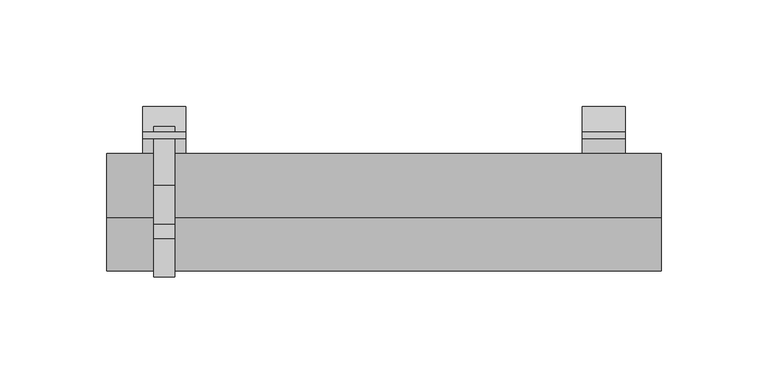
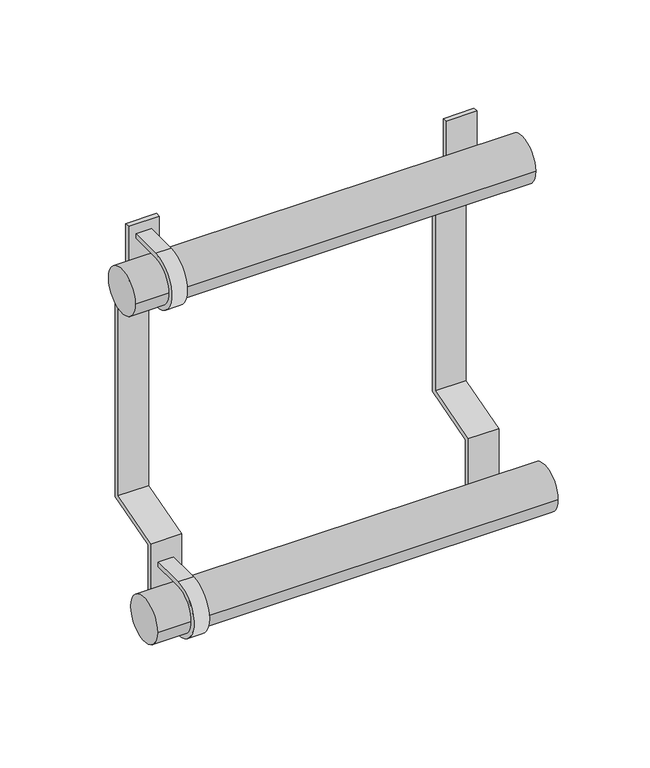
"""IFC4 building model written with IfcOpenShell, lengths in millimetres: valve geometry, PL AT_Manifold_FT-EV : 04 circuits."""

from ifc_helpers import new_model, si_unit, point, frame, frame_2d, origin, origin_2d, place, context, project, spatial, polyline, circle_curve, trimmed, segment, composite_curve, outline, extrude, source, transform, mapped, element, save


def valve_a29cd3ca(model_context):
    return source(origin(), model_context, "Body", "SweptSolid", [
        extrude(outline(polyline([(62.0, 182.8840762), (62.0, 40.6095793), (25.0, 30.0), (25.0, -30.0), (22.0, -30.0), (22.0, 32.2606622), (59.0, 42.8702414), (59.0, 180.3667773), (47.0, 182.4827011), (47.0, 235.0), (50.0, 235.0), (50.0, 185.0), (62.0, 182.8840762)])), frame((206.0, 0.0, 0.0), z_axis=(1.0, 0.0, 0.0), x_axis=(0.0, 1.0, 0.0)), (0.0, 0.0, 1.0), 20.0),
        extrude(outline(composite_curve([segment(trimmed(circle_curve(origin_2d(), 15.0), [point((0.0, 15.0))], [point((0.0, -15.0))], True, "CARTESIAN"), True, "CONTINUOUS"), segment(polyline([(0.0, -15.0), (27.6751284, -15.0), (27.6751284, -18.0), (0.0, -18.0)]), True, "CONTINUOUS"), segment(trimmed(circle_curve(origin_2d(), 18.0), [point((0.0, -18.0))], [point((0.0, 18.0))], False, "CARTESIAN"), True, "CONTINUOUS"), segment(polyline([(0.0, 18.0), (27.6751284, 18.0), (27.6751284, 15.0), (0.0, 15.0)]), True, "CONTINUOUS")], self_intersect=False)), frame((5.0, 0.0, 0.0), z_axis=(1.0, 0.0, 0.0), x_axis=(0.0, 1.0, 0.0)), (0.0, 0.0, 1.0), 10.0),
        extrude(outline(composite_curve([segment(trimmed(circle_curve(frame_2d((25.0, 210.0)), 15.0), [point((25.0, 225.0))], [point((25.0, 195.0))], True, "CARTESIAN"), True, "CONTINUOUS"), segment(polyline([(25.0, 195.0), (52.6751284, 195.0), (52.6751284, 192.0), (25.0, 192.0)]), True, "CONTINUOUS"), segment(trimmed(circle_curve(frame_2d((25.0, 210.0)), 18.0), [point((25.0, 192.0))], [point((25.0, 228.0))], False, "CARTESIAN"), True, "CONTINUOUS"), segment(polyline([(25.0, 228.0), (52.6751284, 228.0), (52.6751284, 225.0), (25.0, 225.0)]), True, "CONTINUOUS")], self_intersect=False)), frame((5.0, 0.0, 0.0), z_axis=(1.0, 0.0, 0.0), x_axis=(0.0, 1.0, 0.0)), (0.0, 0.0, 1.0), 10.0),
        extrude(outline(polyline([(62.0, 182.8840762), (62.0, 40.6095793), (25.0, 30.0), (25.0, -30.0), (22.0, -30.0), (22.0, 32.2606622), (59.0, 42.8702414), (59.0, 180.3667773), (47.0, 182.4827011), (47.0, 235.0), (50.0, 235.0), (50.0, 185.0), (62.0, 182.8840762)])), frame((0.0, 0.0, 0.0), z_axis=(1.0, 0.0, 0.0), x_axis=(0.0, 1.0, 0.0)), (0.0, 0.0, 1.0), 20.0),
        extrude(outline(composite_curve([segment(trimmed(circle_curve(origin_2d(), 15.0), [point((15.0, 0.0))], [point((-15.0, 0.0))], False, "CARTESIAN"), True, "CONTINUOUS"), segment(trimmed(circle_curve(origin_2d(), 15.0), [point((-15.0, 0.0))], [point((15.0, 0.0))], False, "CARTESIAN"), True, "CONTINUOUS")], self_intersect=False)), frame((-17.0, 0.0, 0.0), z_axis=(1.0, 0.0, 0.0), x_axis=(0.0, 1.0, 0.0)), (0.0, 0.0, 1.0), 260.0),
        extrude(outline(composite_curve([segment(trimmed(circle_curve(frame_2d((25.0, 210.0)), 15.0), [point((40.0, 210.0))], [point((10.0, 210.0))], False, "CARTESIAN"), True, "CONTINUOUS"), segment(trimmed(circle_curve(frame_2d((25.0, 210.0)), 15.0), [point((10.0, 210.0))], [point((40.0, 210.0))], False, "CARTESIAN"), True, "CONTINUOUS")], self_intersect=False)), frame((-17.0, 0.0, 0.0), z_axis=(1.0, 0.0, 0.0), x_axis=(0.0, 1.0, 0.0)), (0.0, 0.0, 1.0), 260.0),
    ])


if __name__ == "__main__":
    model = new_model("IFC4")
    model_context = context("Model", 3, world=origin())
    ifc_project = project(units=[si_unit("LENGTHUNIT", "METRE", prefix="MILLI")], contexts=[model_context])
    site = spatial("IfcSite", under=ifc_project)
    building = spatial("IfcBuilding", under=site)
    placement = place(None, origin())
    valve_shape = valve_a29cd3ca(model_context)
    element("IfcValve", 1, ObjectType="PL AT_Manifold_FT-EV : 04 circuits", at=placement, inside=building, context=model_context, shape_type="MappedRepresentation", body=[
        mapped(valve_shape, transform((0.0, 0.0, 0.0), x_axis=(1.0, 0.0, 0.0), y_axis=(0.0, 1.0, 0.0), z_axis=(0.0, 0.0, 1.0))),
    ])
    save(model, "model.ifc")
